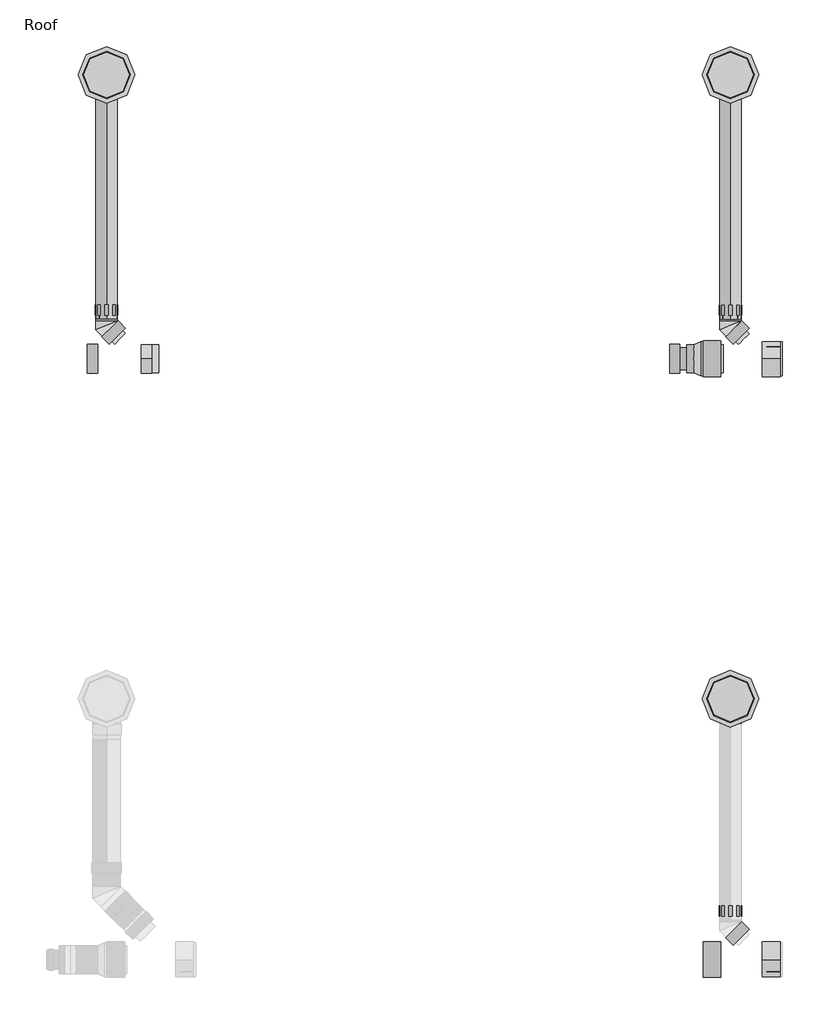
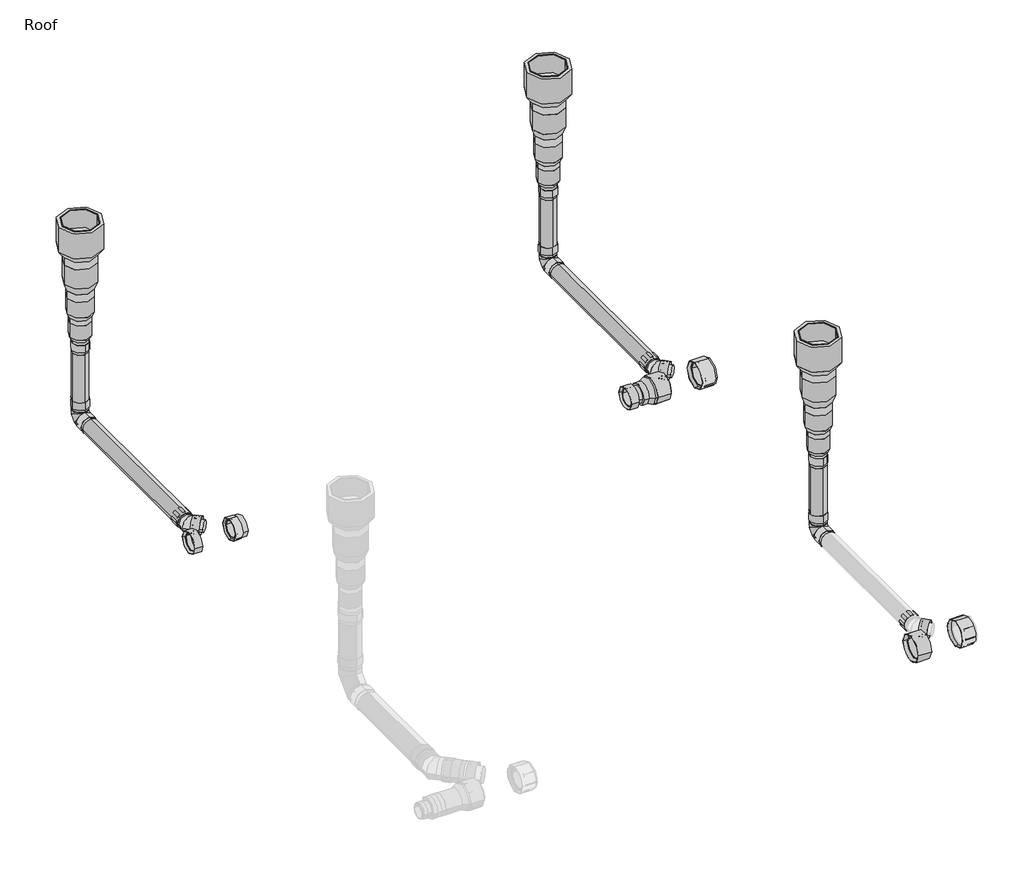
# One storey, part 2 of 2: 78 pipe fittings, 5 pipe segments.
"""IFC4 building model written with IfcOpenShell, lengths in millimetres."""

from ifc_helpers import new_model, si_unit, point, frame, frame_2d, origin, place, context, project, spatial, circle_curve, trimmed, segment, composite_curve, outline, extrude, transform, mapped, element, save
from components import single_bend_1a633ba9, std_f74d09a4, std_nested_457d7e35, std_nested_42e1da43, std_nested_46ab66b3, std_nested_0347eb02, std_nested_8359234f, std_nested_ff61fb87, std_nested_b22cb0b6, std_nested_3dcc5080, std_nested_a7162979, std_nested_8648658f, std_nested_bf630df5, std_nested_f9609c66, std_nested_90d89c33, std_nested_8d21ddc5, std_nested_0bc2af1f, std_nested_86b862b6, std_nested_4c8aca36, std_nested_1c860d80, std_nested_eee07551, std_nested_bf323bc0, std_nested_284e0d50, unequal_23b936e7, unequal_3d65edd0

model = new_model("IFC4")

# Units and contexts
model_context = context("Model", 3, world=origin())
ifc_project = project(units=[si_unit("LENGTHUNIT", "METRE", prefix="MILLI")], contexts=[model_context])

# Site, building, storey
site = spatial("IfcSite", under=ifc_project)
building = spatial("IfcBuilding", under=site)
storey = spatial("IfcBuildingStorey", under=building, Name="Roof", Elevation=8000.0)

# Pipe fittings
placement = place(None, origin())
single_bend_shape = single_bend_1a633ba9(model_context)
element("IfcPipeFitting", 1, ObjectType="PIF_ST_UN_GM-X compound pipe multi-bend_ACO : single bend", at=placement, inside=storey, context=model_context, shape_type="MappedRepresentation", body=[
    mapped(single_bend_shape, transform((-14814.684142, 6588.0682309, 6367.4522786), x_axis=(0.0, 0.0, -1.0), y_axis=(0.0, -1.0, 0.0), z_axis=(-1.0, 0.0, 0.0))),
])
element("IfcPipeFitting", 2, ObjectType="PIF_ST_UN_GM-X compound pipe multi-bend_ACO : single bend", at=placement, inside=storey, context=model_context, shape_type="MappedRepresentation", body=[
    mapped(single_bend_shape, transform((-11814.684142, 6588.0682309, 6367.4522786), x_axis=(0.0, 0.0, -1.0), y_axis=(0.0, -1.0, 0.0), z_axis=(-1.0, 0.0, 0.0))),
])
element("IfcPipeFitting", 3, ObjectType="PIF_ST_UN_GM-X compound pipe multi-bend_ACO : single bend", at=placement, inside=storey, context=model_context, shape_type="MappedRepresentation", body=[
    mapped(single_bend_shape, transform((-11814.684142, 3588.0682309, 6367.4522786), x_axis=(0.0, 0.0, -1.0), y_axis=(0.0, -1.0, 0.0), z_axis=(-1.0, 0.0, 0.0))),
])
std_shape = std_f74d09a4(model_context)
element("IfcPipeFitting", 4, ObjectType="PIF_ST_UN_GM-X compound pipe multi-optimiser (transition)_ACO : std", at=placement, inside=storey, context=model_context, shape_type="MappedRepresentation", body=[
    mapped(std_shape, transform((-14814.684142, 6588.0682309, 7573.302388), x_axis=(0.0, 0.0, -1.0), y_axis=(1.0, 0.0, 0.0), z_axis=(0.0, -1.0, 0.0))),
])
element("IfcPipeFitting", 5, ObjectType="PIF_ST_UN_GM-X compound pipe multi-optimiser (transition)_ACO : std", at=placement, inside=storey, context=model_context, shape_type="MappedRepresentation", body=[
    mapped(std_shape, transform((-11814.684142, 6588.0682309, 7573.302388), x_axis=(0.0, 0.0, -1.0), y_axis=(1.0, 0.0, 0.0), z_axis=(0.0, -1.0, 0.0))),
])
element("IfcPipeFitting", 6, ObjectType="PIF_ST_UN_GM-X compound pipe multi-optimiser (transition)_ACO : std", at=placement, inside=storey, context=model_context, shape_type="MappedRepresentation", body=[
    mapped(std_shape, transform((-11814.684142, 3588.0682309, 7573.302388), x_axis=(0.0, 0.0, -1.0), y_axis=(1.0, 0.0, 0.0), z_axis=(0.0, -1.0, 0.0))),
])
std_nested_shape = std_nested_457d7e35(model_context)
element("IfcPipeFitting", 7, ObjectType="ZZZ_do not use_PIF_GEN_WPB_GM-X (compound) pipe seal_ACO : std (nested)", at=placement, inside=storey, context=model_context, shape_type="MappedRepresentation", body=[
    mapped(std_nested_shape, transform((-14564.1709026, 5223.6615366, 6367.4522786), x_axis=(0.0, 0.0, 1.0), y_axis=(0.0, -1.0, 0.0), z_axis=(1.0, 0.0, 0.0))),
])
std_nested_2_shape = std_nested_42e1da43(model_context)
element("IfcPipeFitting", 8, ObjectType="ZZZ_do not use_PIF_GEN_WPB_GM-X (compound) pipe seal_ACO : std (nested)", at=placement, inside=storey, context=model_context, shape_type="MappedRepresentation", body=[
    mapped(std_nested_2_shape, transform((-14894.1709026, 5223.6615366, 6367.4522786), x_axis=(0.0, -1.0, 0.0), y_axis=(0.0, 0.0, 1.0), z_axis=(-1.0, 0.0, 0.0))),
])
element("IfcPipeFitting", 9, ObjectType="ZZZ_do not use_PIF_GEN_WPB_GM-X (compound) pipe seal_ACO : std (nested)", at=placement, inside=storey, context=model_context, shape_type="MappedRepresentation", body=[
    mapped(std_nested_2_shape, transform((-12094.8780094, 5223.6615366, 6367.4522786), x_axis=(0.0, 1.0, 0.0), y_axis=(0.0, 0.0, -1.0), z_axis=(-1.0, 0.0, 0.0))),
])
std_nested_3_shape = std_nested_46ab66b3(model_context)
element("IfcPipeFitting", 10, ObjectType="ZZZ_do not use_PIF_GEN_WPB_GM-X (compound) pipe seal_ACO : std (nested)", at=placement, inside=storey, context=model_context, shape_type="MappedRepresentation", body=[
    mapped(std_nested_3_shape, transform((-11924.8780094, 5223.6615366, 6367.4522786), x_axis=(0.0, -1.0, 0.0), y_axis=(0.0, 0.0, 1.0), z_axis=(-1.0, 0.0, 0.0))),
])
std_nested_4_shape = std_nested_0347eb02(model_context)
element("IfcPipeFitting", 11, ObjectType="ZZZ_do not use_PIF_GEN_WPB_GM-X (compound) pipe seal_ACO : std (nested)", at=placement, inside=storey, context=model_context, shape_type="MappedRepresentation", body=[
    mapped(std_nested_4_shape, transform((-14814.684142, 6588.0682309, 6479.7522786), x_axis=(0.0, -1.0, 0.0), y_axis=(1.0, 0.0, 0.0), z_axis=(0.0, 0.0, 1.0))),
])
element("IfcPipeFitting", 12, ObjectType="ZZZ_do not use_PIF_GEN_WPB_GM-X (compound) pipe seal_ACO : std (nested)", at=placement, inside=storey, context=model_context, shape_type="MappedRepresentation", body=[
    mapped(std_nested_4_shape, transform((-14814.684142, 5470.174776, 6367.4522786), x_axis=(-1.0, 0.0, 0.0), y_axis=(0.0, 0.0, 1.0000000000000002), z_axis=(0.0, 1.0, 0.0))),
])
element("IfcPipeFitting", 13, ObjectType="ZZZ_do not use_PIF_GEN_WPB_GM-X (compound) pipe seal_ACO : std (nested)", at=placement, inside=storey, context=model_context, shape_type="MappedRepresentation", body=[
    mapped(std_nested_4_shape, transform((-14789.2282978, 5358.7189318, 6367.4522786), x_axis=(-0.7071067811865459, -0.7071067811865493, 0.0), y_axis=(0.0, 0.0, 1.0000000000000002), z_axis=(-0.7071067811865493, 0.7071067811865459, 0.0))),
])
element("IfcPipeFitting", 14, ObjectType="ZZZ_do not use_PIF_GEN_WPB_GM-X (compound) pipe seal_ACO : std (nested)", at=placement, inside=storey, context=model_context, shape_type="MappedRepresentation", body=[
    mapped(std_nested_4_shape, transform((-11814.684142, 6588.0682309, 6479.7522786), x_axis=(0.0, -1.0, 0.0), y_axis=(1.0, 0.0, 0.0), z_axis=(0.0, 0.0, 1.0))),
])
element("IfcPipeFitting", 15, ObjectType="ZZZ_do not use_PIF_GEN_WPB_GM-X (compound) pipe seal_ACO : std (nested)", at=placement, inside=storey, context=model_context, shape_type="MappedRepresentation", body=[
    mapped(std_nested_4_shape, transform((-11814.684142, 5469.4676692, 6367.4522786), x_axis=(-1.0, 0.0, 0.0), y_axis=(0.0, 0.0, 1.0000000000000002), z_axis=(0.0, 1.0, 0.0))),
])
element("IfcPipeFitting", 16, ObjectType="ZZZ_do not use_PIF_GEN_WPB_GM-X (compound) pipe seal_ACO : std (nested)", at=placement, inside=storey, context=model_context, shape_type="MappedRepresentation", body=[
    mapped(std_nested_4_shape, transform((-11789.2282978, 5358.0118251, 6367.4522786), x_axis=(-0.7071067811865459, -0.7071067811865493, 0.0), y_axis=(0.0, 0.0, 1.0000000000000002), z_axis=(-0.7071067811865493, 0.7071067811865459, 0.0))),
])
element("IfcPipeFitting", 17, ObjectType="ZZZ_do not use_PIF_GEN_WPB_GM-X (compound) pipe seal_ACO : std (nested)", at=placement, inside=storey, context=model_context, shape_type="MappedRepresentation", body=[
    mapped(std_nested_4_shape, transform((-11814.684142, 3588.0682309, 6479.7522786), x_axis=(0.0, -1.0, 0.0), y_axis=(1.0, 0.0, 0.0), z_axis=(0.0, 0.0, 1.0))),
])
std_nested_5_shape = std_nested_8359234f(model_context)
element("IfcPipeFitting", 18, ObjectType="ZZZ_do not use_PIF_GEN_WPB_GM-X (compound) pipe seal_ACO : std (nested)", at=placement, inside=storey, context=model_context, shape_type="MappedRepresentation", body=[
    mapped(std_nested_5_shape, transform((-14814.684142, 6469.3682309, 6367.4522786), x_axis=(0.0, 0.0, -1.0), y_axis=(1.0, 0.0, 0.0), z_axis=(0.0, -1.0, 0.0))),
])
element("IfcPipeFitting", 19, ObjectType="ZZZ_do not use_PIF_GEN_WPB_GM-X (compound) pipe seal_ACO : std (nested)", at=placement, inside=storey, context=model_context, shape_type="MappedRepresentation", body=[
    mapped(std_nested_5_shape, transform((-11814.684142, 6469.3682309, 6367.4522786), x_axis=(0.0, 0.0, -1.0), y_axis=(1.0, 0.0, 0.0), z_axis=(0.0, -1.0, 0.0))),
])
element("IfcPipeFitting", 20, ObjectType="ZZZ_do not use_PIF_GEN_WPB_GM-X (compound) pipe seal_ACO : std (nested)", at=placement, inside=storey, context=model_context, shape_type="MappedRepresentation", body=[
    mapped(std_nested_5_shape, transform((-11814.684142, 3469.3682309, 6367.4522786), x_axis=(0.0, 0.0, -1.0), y_axis=(1.0, 0.0, 0.0), z_axis=(0.0, -1.0, 0.0))),
])
std_nested_6_shape = std_nested_ff61fb87(model_context)
element("IfcPipeFitting", 21, ObjectType="ZZZ_do not use_PIF_ST_WPB_GM-X compound pipe clamp_ACO : std (nested)", at=placement, inside=storey, context=model_context, shape_type="MappedRepresentation", body=[
    mapped(std_nested_6_shape, transform((-14564.1709026, 5223.6615366, 6367.4522786), x_axis=(0.0, 0.0, 1.0), y_axis=(0.0, -1.0, 0.0), z_axis=(1.0, 0.0, 0.0))),
])
std_nested_7_shape = std_nested_b22cb0b6(model_context)
element("IfcPipeFitting", 22, ObjectType="ZZZ_do not use_PIF_GEN_WPB_GM-X (compound) pipe seal_ACO : std (nested)", at=placement, inside=storey, context=model_context, shape_type="MappedRepresentation", body=[
    mapped(std_nested_7_shape, transform((-11564.8780094, 5223.6615366, 6367.4522786), x_axis=(0.0, 0.0, 1.0), y_axis=(0.0, -1.0, 0.0), z_axis=(1.0, 0.0, 0.0))),
])
std_nested_8_shape = std_nested_3dcc5080(model_context)
element("IfcPipeFitting", 23, ObjectType="ZZZ_do not use_PIF_GEN_WPB_GM-X (compound) pipe seal_ACO : std (nested)", at=placement, inside=storey, context=model_context, shape_type="MappedRepresentation", body=[
    mapped(std_nested_8_shape, transform((-14814.684142, 6588.0682309, 7428.302388), x_axis=(-1.0, 0.0, 0.0), y_axis=(0.0, -1.0, 0.0), z_axis=(0.0, 0.0, 1.0))),
])
element("IfcPipeFitting", 24, ObjectType="ZZZ_do not use_PIF_GEN_WPB_GM-X (compound) pipe seal_ACO : std (nested)", at=placement, inside=storey, context=model_context, shape_type="MappedRepresentation", body=[
    mapped(std_nested_8_shape, transform((-11814.684142, 6588.0682309, 7428.302388), x_axis=(-1.0, 0.0, 0.0), y_axis=(0.0, -1.0, 0.0), z_axis=(0.0, 0.0, 1.0))),
])
element("IfcPipeFitting", 25, ObjectType="ZZZ_do not use_PIF_GEN_WPB_GM-X (compound) pipe seal_ACO : std (nested)", at=placement, inside=storey, context=model_context, shape_type="MappedRepresentation", body=[
    mapped(std_nested_8_shape, transform((-11814.684142, 3588.0682309, 7428.302388), x_axis=(-1.0, 0.0, 0.0), y_axis=(0.0, -1.0, 0.0), z_axis=(0.0, 0.0, 1.0))),
])
element("IfcPipeFitting", 26, ObjectType="ZZZ_do not use_PIF_GEN_WPB_GM-X (compound) pipe seal_ACO : std (nested)", at=placement, inside=storey, context=model_context, shape_type="MappedRepresentation", body=[
    mapped(std_nested_3_shape, transform((-14814.684142, 6588.0682309, 7193.302388), x_axis=(-1.0, 0.0, 0.0), y_axis=(0.0, -1.0, 0.0), z_axis=(0.0, 0.0, 1.0))),
])
element("IfcPipeFitting", 27, ObjectType="ZZZ_do not use_PIF_GEN_WPB_GM-X (compound) pipe seal_ACO : std (nested)", at=placement, inside=storey, context=model_context, shape_type="MappedRepresentation", body=[
    mapped(std_nested_3_shape, transform((-11814.684142, 6588.0682309, 7193.302388), x_axis=(-1.0, 0.0, 0.0), y_axis=(0.0, -1.0, 0.0), z_axis=(0.0, 0.0, 1.0))),
])
element("IfcPipeFitting", 28, ObjectType="ZZZ_do not use_PIF_GEN_WPB_GM-X (compound) pipe seal_ACO : std (nested)", at=placement, inside=storey, context=model_context, shape_type="MappedRepresentation", body=[
    mapped(std_nested_3_shape, transform((-11814.684142, 3588.0682309, 7193.302388), x_axis=(-1.0, 0.0, 0.0), y_axis=(0.0, -1.0, 0.0), z_axis=(0.0, 0.0, 1.0))),
])
std_nested_9_shape = std_nested_a7162979(model_context)
element("IfcPipeFitting", 29, ObjectType="ZZZ_do not use_PIF_GEN_WPB_GM-X (compound) pipe seal_ACO : std (nested)", at=placement, inside=storey, context=model_context, shape_type="MappedRepresentation", body=[
    mapped(std_nested_9_shape, transform((-14814.684142, 6588.0682309, 7693.302388), x_axis=(-1.0, 0.0, 0.0), y_axis=(0.0, -1.0, 0.0), z_axis=(0.0, 0.0, 1.0))),
])
element("IfcPipeFitting", 30, ObjectType="ZZZ_do not use_PIF_GEN_WPB_GM-X (compound) pipe seal_ACO : std (nested)", at=placement, inside=storey, context=model_context, shape_type="MappedRepresentation", body=[
    mapped(std_nested_9_shape, transform((-11814.684142, 6588.0682309, 7693.302388), x_axis=(-1.0, 0.0, 0.0), y_axis=(0.0, -1.0, 0.0), z_axis=(0.0, 0.0, 1.0))),
])
element("IfcPipeFitting", 31, ObjectType="ZZZ_do not use_PIF_GEN_WPB_GM-X (compound) pipe seal_ACO : std (nested)", at=placement, inside=storey, context=model_context, shape_type="MappedRepresentation", body=[
    mapped(std_nested_9_shape, transform((-11814.684142, 3588.0682309, 7693.302388), x_axis=(-1.0, 0.0, 0.0), y_axis=(0.0, -1.0, 0.0), z_axis=(0.0, 0.0, 1.0))),
])
element("IfcPipeFitting", 32, ObjectType="ZZZ_do not use_PIF_GEN_WPB_GM-X (compound) pipe seal_ACO : std (nested)", at=placement, inside=storey, context=model_context, shape_type="MappedRepresentation", body=[
    mapped(std_nested_2_shape, transform((-14814.684142, 6588.0682309, 7023.302388), x_axis=(-1.0, 0.0, 0.0), y_axis=(0.0, -1.0, 0.0), z_axis=(0.0, 0.0, 1.0))),
])
element("IfcPipeFitting", 33, ObjectType="ZZZ_do not use_PIF_GEN_WPB_GM-X (compound) pipe seal_ACO : std (nested)", at=placement, inside=storey, context=model_context, shape_type="MappedRepresentation", body=[
    mapped(std_nested_2_shape, transform((-11814.684142, 6588.0682309, 7023.302388), x_axis=(-1.0, 0.0, 0.0), y_axis=(0.0, -1.0, 0.0), z_axis=(0.0, 0.0, 1.0))),
])
element("IfcPipeFitting", 34, ObjectType="ZZZ_do not use_PIF_GEN_WPB_GM-X (compound) pipe seal_ACO : std (nested)", at=placement, inside=storey, context=model_context, shape_type="MappedRepresentation", body=[
    mapped(std_nested_2_shape, transform((-11814.684142, 3588.0682309, 7023.302388), x_axis=(-1.0, 0.0, 0.0), y_axis=(0.0, -1.0, 0.0), z_axis=(0.0, 0.0, 1.0))),
])
element("IfcPipeFitting", 35, ObjectType="ZZZ_do not use_PIF_GEN_WPB_GM-X (compound) pipe seal_ACO : std (nested)", at=placement, inside=storey, context=model_context, shape_type="MappedRepresentation", body=[
    mapped(std_nested_5_shape, transform((-14814.684142, 6588.0682309, 6813.302388), x_axis=(0.0, 1.0, 0.0), y_axis=(1.0, 0.0, 0.0), z_axis=(0.0, 0.0, -1.0))),
])
element("IfcPipeFitting", 36, ObjectType="ZZZ_do not use_PIF_GEN_WPB_GM-X (compound) pipe seal_ACO : std (nested)", at=placement, inside=storey, context=model_context, shape_type="MappedRepresentation", body=[
    mapped(std_nested_5_shape, transform((-11814.684142, 6588.0682309, 6813.302388), x_axis=(0.0, 1.0, 0.0), y_axis=(1.0, 0.0, 0.0), z_axis=(0.0, 0.0, -1.0))),
])
element("IfcPipeFitting", 37, ObjectType="ZZZ_do not use_PIF_GEN_WPB_GM-X (compound) pipe seal_ACO : std (nested)", at=placement, inside=storey, context=model_context, shape_type="MappedRepresentation", body=[
    mapped(std_nested_5_shape, transform((-11814.684142, 3588.0682309, 6813.302388), x_axis=(0.0, 1.0, 0.0), y_axis=(1.0, 0.0, 0.0), z_axis=(0.0, 0.0, -1.0))),
])
std_nested_10_shape = std_nested_8648658f(model_context)
element("IfcPipeFitting", 38, ObjectType="ZZZ_do not use_PIF_ST_WPB_GM-X compound pipe clamp_ACO : std (nested)", at=placement, inside=storey, context=model_context, shape_type="MappedRepresentation", body=[
    mapped(std_nested_10_shape, transform((-14814.684142, 6469.3682309, 6367.4522786), x_axis=(0.0, 0.0, -1.0), y_axis=(1.0, 0.0, 0.0), z_axis=(0.0, -1.0, 0.0))),
])
element("IfcPipeFitting", 39, ObjectType="ZZZ_do not use_PIF_ST_WPB_GM-X compound pipe clamp_ACO : std (nested)", at=placement, inside=storey, context=model_context, shape_type="MappedRepresentation", body=[
    mapped(std_nested_10_shape, transform((-11814.684142, 6469.3682309, 6367.4522786), x_axis=(0.0, 0.0, -1.0), y_axis=(1.0, 0.0, 0.0), z_axis=(0.0, -1.0, 0.0))),
])
element("IfcPipeFitting", 40, ObjectType="ZZZ_do not use_PIF_ST_WPB_GM-X compound pipe clamp_ACO : std (nested)", at=placement, inside=storey, context=model_context, shape_type="MappedRepresentation", body=[
    mapped(std_nested_10_shape, transform((-11814.684142, 3469.3682309, 6367.4522786), x_axis=(0.0, 0.0, -1.0), y_axis=(1.0, 0.0, 0.0), z_axis=(0.0, -1.0, 0.0))),
])
std_nested_11_shape = std_nested_bf630df5(model_context)
element("IfcPipeFitting", 41, ObjectType="ZZZ_do not use_PIF_ST_WPB_GM-X compound pipe clamp_ACO : std (nested)", at=placement, inside=storey, context=model_context, shape_type="MappedRepresentation", body=[
    mapped(std_nested_11_shape, transform((-14894.1709026, 5223.6615366, 6367.4522786), x_axis=(0.0, -1.0, 0.0), y_axis=(0.0, 0.0, 1.0), z_axis=(-1.0, 0.0, 0.0))),
])
element("IfcPipeFitting", 42, ObjectType="ZZZ_do not use_PIF_ST_WPB_GM-X compound pipe clamp_ACO : std (nested)", at=placement, inside=storey, context=model_context, shape_type="MappedRepresentation", body=[
    mapped(std_nested_11_shape, transform((-12094.8780094, 5223.6615366, 6367.4522786), x_axis=(0.0, 1.0, 0.0), y_axis=(0.0, 0.0, -1.0), z_axis=(-1.0, 0.0, 0.0))),
])
std_nested_12_shape = std_nested_f9609c66(model_context)
element("IfcPipeFitting", 43, ObjectType="ZZZ_do not use_PIF_ST_WPB_GM-X compound pipe clamp_ACO : std (nested)", at=placement, inside=storey, context=model_context, shape_type="MappedRepresentation", body=[
    mapped(std_nested_12_shape, transform((-14814.684142, 6588.0682309, 6479.7522786), x_axis=(0.0, -1.0, 0.0), y_axis=(1.0, 0.0, 0.0), z_axis=(0.0, 0.0, 1.0))),
])
element("IfcPipeFitting", 44, ObjectType="ZZZ_do not use_PIF_ST_WPB_GM-X compound pipe clamp_ACO : std (nested)", at=placement, inside=storey, context=model_context, shape_type="MappedRepresentation", body=[
    mapped(std_nested_12_shape, transform((-11814.684142, 6588.0682309, 6479.7522786), x_axis=(0.0, -1.0, 0.0), y_axis=(1.0, 0.0, 0.0), z_axis=(0.0, 0.0, 1.0))),
])
element("IfcPipeFitting", 45, ObjectType="ZZZ_do not use_PIF_ST_WPB_GM-X compound pipe clamp_ACO : std (nested)", at=placement, inside=storey, context=model_context, shape_type="MappedRepresentation", body=[
    mapped(std_nested_12_shape, transform((-11814.684142, 3588.0682309, 6479.7522786), x_axis=(0.0, -1.0, 0.0), y_axis=(1.0, 0.0, 0.0), z_axis=(0.0, 0.0, 1.0))),
])
element("IfcPipeFitting", 46, ObjectType="ZZZ_do not use_PIF_ST_WPB_GM-X compound pipe clamp_ACO : std (nested)", at=placement, inside=storey, context=model_context, shape_type="MappedRepresentation", body=[
    mapped(std_nested_12_shape, transform((-14814.684142, 5470.174776, 6367.4522786), x_axis=(-1.0, 0.0, 0.0), y_axis=(0.0, 0.0, 1.0000000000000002), z_axis=(0.0, 1.0, 0.0))),
])
element("IfcPipeFitting", 47, ObjectType="ZZZ_do not use_PIF_ST_WPB_GM-X compound pipe clamp_ACO : std (nested)", at=placement, inside=storey, context=model_context, shape_type="MappedRepresentation", body=[
    mapped(std_nested_12_shape, transform((-14789.2282978, 5358.7189318, 6367.4522786), x_axis=(-0.7071067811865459, -0.7071067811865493, 0.0), y_axis=(0.0, 0.0, 1.0000000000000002), z_axis=(-0.7071067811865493, 0.7071067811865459, 0.0))),
])
element("IfcPipeFitting", 48, ObjectType="ZZZ_do not use_PIF_ST_WPB_GM-X compound pipe clamp_ACO : std (nested)", at=placement, inside=storey, context=model_context, shape_type="MappedRepresentation", body=[
    mapped(std_nested_12_shape, transform((-11814.684142, 5469.4676692, 6367.4522786), x_axis=(-1.0, 0.0, 0.0), y_axis=(0.0, 0.0, 1.0000000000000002), z_axis=(0.0, 1.0, 0.0))),
])
element("IfcPipeFitting", 49, ObjectType="ZZZ_do not use_PIF_ST_WPB_GM-X compound pipe clamp_ACO : std (nested)", at=placement, inside=storey, context=model_context, shape_type="MappedRepresentation", body=[
    mapped(std_nested_12_shape, transform((-11789.2282978, 5358.0118251, 6367.4522786), x_axis=(-0.7071067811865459, -0.7071067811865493, 0.0), y_axis=(0.0, 0.0, 1.0000000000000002), z_axis=(-0.7071067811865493, 0.7071067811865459, 0.0))),
])
element("IfcPipeFitting", 50, ObjectType="ZZZ_do not use_PIF_ST_WPB_GM-X compound pipe clamp_ACO : std (nested)", at=placement, inside=storey, context=model_context, shape_type="MappedRepresentation", body=[
    mapped(std_nested_12_shape, transform((-11814.684142, 2579.9140576, 6367.4522786), x_axis=(-1.0, 0.0, 0.0), y_axis=(0.0, 0.0, 1.0000000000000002), z_axis=(0.0, 1.0, 0.0))),
])
element("IfcPipeFitting", 51, ObjectType="ZZZ_do not use_PIF_ST_WPB_GM-X compound pipe clamp_ACO : std (nested)", at=placement, inside=storey, context=model_context, shape_type="MappedRepresentation", body=[
    mapped(std_nested_12_shape, transform((-11789.2282978, 2468.4582135, 6367.4522786), x_axis=(0.7071067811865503, 0.7071067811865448, 0.0), y_axis=(0.0, 0.0, -1.0000000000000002), z_axis=(-0.7071067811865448, 0.7071067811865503, 0.0))),
])
std_nested_13_shape = std_nested_90d89c33(model_context)
element("IfcPipeFitting", 52, ObjectType="ZZZ_do not use_PIF_ST_WPB_GM-X compound pipe clamp_ACO : std (nested)", at=placement, inside=storey, context=model_context, shape_type="MappedRepresentation", body=[
    mapped(std_nested_13_shape, transform((-11924.8780094, 5223.6615366, 6367.4522786), x_axis=(0.0, -1.0, 0.0), y_axis=(0.0, 0.0, 1.0), z_axis=(-1.0, 0.0, 0.0))),
])
element("IfcPipeFitting", 53, ObjectType="ZZZ_do not use_PIF_ST_WPB_GM-X compound pipe clamp_ACO : std (nested)", at=placement, inside=storey, context=model_context, shape_type="MappedRepresentation", body=[
    mapped(std_nested_13_shape, transform((-11924.8780094, 2334.1079251, 6367.4522786), x_axis=(0.0, 1.0, 0.0), y_axis=(0.0, 0.0, -1.0), z_axis=(-1.0, 0.0, 0.0))),
])
std_nested_14_shape = std_nested_8d21ddc5(model_context)
element("IfcPipeFitting", 54, ObjectType="ZZZ_do not use_PIF_ST_WPB_GM-X compound pipe clamp_ACO : std (nested)", at=placement, inside=storey, context=model_context, shape_type="MappedRepresentation", body=[
    mapped(std_nested_14_shape, transform((-11564.8780094, 5223.6615366, 6367.4522786), x_axis=(0.0, 0.0, 1.0), y_axis=(0.0, -1.0, 0.0), z_axis=(1.0, 0.0, 0.0))),
])
element("IfcPipeFitting", 55, ObjectType="ZZZ_do not use_PIF_ST_WPB_GM-X compound pipe clamp_ACO : std (nested)", at=placement, inside=storey, context=model_context, shape_type="MappedRepresentation", body=[
    mapped(std_nested_14_shape, transform((-11564.8780094, 2334.1079251, 6367.4522786), x_axis=(0.0, 0.0, -1.0), y_axis=(0.0, 1.0, 0.0), z_axis=(1.0, 0.0, 0.0))),
])
element("IfcPipeFitting", 56, ObjectType="ZZZ_do not use_PIF_ST_WPB_GM-X compound pipe clamp_ACO : std (nested)", at=placement, inside=storey, context=model_context, shape_type="MappedRepresentation", body=[
    mapped(std_nested_10_shape, transform((-14814.684142, 6588.0682309, 6813.302388), x_axis=(0.0, 1.0, 0.0), y_axis=(1.0, 0.0, 0.0), z_axis=(0.0, 0.0, -1.0))),
])
element("IfcPipeFitting", 57, ObjectType="ZZZ_do not use_PIF_ST_WPB_GM-X compound pipe clamp_ACO : std (nested)", at=placement, inside=storey, context=model_context, shape_type="MappedRepresentation", body=[
    mapped(std_nested_10_shape, transform((-11814.684142, 6588.0682309, 6813.302388), x_axis=(0.0, 1.0, 0.0), y_axis=(1.0, 0.0, 0.0), z_axis=(0.0, 0.0, -1.0))),
])
element("IfcPipeFitting", 58, ObjectType="ZZZ_do not use_PIF_ST_WPB_GM-X compound pipe clamp_ACO : std (nested)", at=placement, inside=storey, context=model_context, shape_type="MappedRepresentation", body=[
    mapped(std_nested_10_shape, transform((-11814.684142, 3588.0682309, 6813.302388), x_axis=(0.0, 1.0, 0.0), y_axis=(1.0, 0.0, 0.0), z_axis=(0.0, 0.0, -1.0))),
])
std_nested_15_shape = std_nested_0bc2af1f(model_context)
element("IfcPipeFitting", 59, ObjectType="ZZZ_do not use_PIF_ST_WPB_GM-X compound pipe bend_ACO : std (nested)", at=placement, inside=storey, context=model_context, shape_type="MappedRepresentation", body=[
    mapped(std_nested_15_shape, transform((-14814.684142, 6588.0682309, 6367.4522786), x_axis=(0.0, 0.0, -1.0), y_axis=(0.0, -1.0, 0.0), z_axis=(-1.0, 0.0, 0.0))),
])
element("IfcPipeFitting", 60, ObjectType="ZZZ_do not use_PIF_ST_WPB_GM-X compound pipe bend_ACO : std (nested)", at=placement, inside=storey, context=model_context, shape_type="MappedRepresentation", body=[
    mapped(std_nested_15_shape, transform((-11814.684142, 6588.0682309, 6367.4522786), x_axis=(0.0, 0.0, -1.0), y_axis=(0.0, -1.0, 0.0), z_axis=(-1.0, 0.0, 0.0))),
])
element("IfcPipeFitting", 61, ObjectType="ZZZ_do not use_PIF_ST_WPB_GM-X compound pipe bend_ACO : std (nested)", at=placement, inside=storey, context=model_context, shape_type="MappedRepresentation", body=[
    mapped(std_nested_15_shape, transform((-11814.684142, 3588.0682309, 6367.4522786), x_axis=(0.0, 0.0, -1.0), y_axis=(0.0, -1.0, 0.0), z_axis=(-1.0, 0.0, 0.0))),
])
std_nested_16_shape = std_nested_86b862b6(model_context)
element("IfcPipeFitting", 62, ObjectType="ZZZ_do not use_PIF_ST_WPB_GM-X compound pipe bend_ACO : std (nested)", at=placement, inside=storey, context=model_context, shape_type="MappedRepresentation", body=[
    mapped(std_nested_16_shape, transform((-14814.684142, 5384.174776, 6367.4522786), x_axis=(-0.7071067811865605, 0.7071067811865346, 0.0), y_axis=(0.7071067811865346, 0.7071067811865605, 0.0), z_axis=(0.0, 0.0, -1.0))),
])
element("IfcPipeFitting", 63, ObjectType="ZZZ_do not use_PIF_ST_WPB_GM-X compound pipe bend_ACO : std (nested)", at=placement, inside=storey, context=model_context, shape_type="MappedRepresentation", body=[
    mapped(std_nested_16_shape, transform((-11814.684142, 5383.4676692, 6367.4522786), x_axis=(-0.7071067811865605, 0.7071067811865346, 0.0), y_axis=(0.7071067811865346, 0.7071067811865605, 0.0), z_axis=(0.0, 0.0, -1.0))),
])
std_nested_17_shape = std_nested_4c8aca36(model_context)
element("IfcPipeFitting", 64, ObjectType="ZZZ_do not use_PIF_ST_WPB_GM-X compound pipe optimiser_ACO : std (nested)", at=placement, inside=storey, context=model_context, shape_type="MappedRepresentation", body=[
    mapped(std_nested_17_shape, transform((-14814.684142, 6588.0682309, 7573.302388), x_axis=(0.0, 0.0, -1.0), y_axis=(1.0, 0.0, 0.0), z_axis=(0.0, -1.0, 0.0))),
])
element("IfcPipeFitting", 65, ObjectType="ZZZ_do not use_PIF_ST_WPB_GM-X compound pipe optimiser_ACO : std (nested)", at=placement, inside=storey, context=model_context, shape_type="MappedRepresentation", body=[
    mapped(std_nested_17_shape, transform((-11814.684142, 6588.0682309, 7573.302388), x_axis=(0.0, 0.0, -1.0), y_axis=(1.0, 0.0, 0.0), z_axis=(0.0, -1.0, 0.0))),
])
element("IfcPipeFitting", 66, ObjectType="ZZZ_do not use_PIF_ST_WPB_GM-X compound pipe optimiser_ACO : std (nested)", at=placement, inside=storey, context=model_context, shape_type="MappedRepresentation", body=[
    mapped(std_nested_17_shape, transform((-11814.684142, 3588.0682309, 7573.302388), x_axis=(0.0, 0.0, -1.0), y_axis=(1.0, 0.0, 0.0), z_axis=(0.0, -1.0, 0.0))),
])
std_nested_18_shape = std_nested_1c860d80(model_context)
element("IfcPipeFitting", 67, ObjectType="ZZZ_do not use_PIF_ST_WPB_GM-X compound pipe optimiser_ACO : std (nested)", at=placement, inside=storey, context=model_context, shape_type="MappedRepresentation", body=[
    mapped(std_nested_18_shape, transform((-14814.684142, 6588.0682309, 7348.302388), x_axis=(0.0, 0.0, -1.0), y_axis=(1.0, 0.0, 0.0), z_axis=(0.0, -1.0, 0.0))),
])
element("IfcPipeFitting", 68, ObjectType="ZZZ_do not use_PIF_ST_WPB_GM-X compound pipe optimiser_ACO : std (nested)", at=placement, inside=storey, context=model_context, shape_type="MappedRepresentation", body=[
    mapped(std_nested_18_shape, transform((-11814.684142, 6588.0682309, 7348.302388), x_axis=(0.0, 0.0, -1.0), y_axis=(1.0, 0.0, 0.0), z_axis=(0.0, -1.0, 0.0))),
])
element("IfcPipeFitting", 69, ObjectType="ZZZ_do not use_PIF_ST_WPB_GM-X compound pipe optimiser_ACO : std (nested)", at=placement, inside=storey, context=model_context, shape_type="MappedRepresentation", body=[
    mapped(std_nested_18_shape, transform((-11814.684142, 3588.0682309, 7348.302388), x_axis=(0.0, 0.0, -1.0), y_axis=(1.0, 0.0, 0.0), z_axis=(0.0, -1.0, 0.0))),
])
std_nested_19_shape = std_nested_eee07551(model_context)
element("IfcPipeFitting", 70, ObjectType="ZZZ_do not use_PIF_ST_WPB_GM-X compound pipe optimiser_ACO : std (nested)", at=placement, inside=storey, context=model_context, shape_type="MappedRepresentation", body=[
    mapped(std_nested_19_shape, transform((-14814.684142, 6588.0682309, 7118.302388), x_axis=(0.0, 0.0, -1.0), y_axis=(1.0, 0.0, 0.0), z_axis=(0.0, -1.0, 0.0))),
])
element("IfcPipeFitting", 71, ObjectType="ZZZ_do not use_PIF_ST_WPB_GM-X compound pipe optimiser_ACO : std (nested)", at=placement, inside=storey, context=model_context, shape_type="MappedRepresentation", body=[
    mapped(std_nested_19_shape, transform((-11814.684142, 6588.0682309, 7118.302388), x_axis=(0.0, 0.0, -1.0), y_axis=(1.0, 0.0, 0.0), z_axis=(0.0, -1.0, 0.0))),
])
element("IfcPipeFitting", 72, ObjectType="ZZZ_do not use_PIF_ST_WPB_GM-X compound pipe optimiser_ACO : std (nested)", at=placement, inside=storey, context=model_context, shape_type="MappedRepresentation", body=[
    mapped(std_nested_19_shape, transform((-11814.684142, 3588.0682309, 7118.302388), x_axis=(0.0, 0.0, -1.0), y_axis=(1.0, 0.0, 0.0), z_axis=(0.0, -1.0, 0.0))),
])
std_nested_20_shape = std_nested_bf323bc0(model_context)
element("IfcPipeFitting", 73, ObjectType="ZZZ_do not use_PIF_ST_WPB_GM-X compound pipe optimiser_ACO : std (nested)", at=placement, inside=storey, context=model_context, shape_type="MappedRepresentation", body=[
    mapped(std_nested_20_shape, transform((-14814.684142, 6588.0682309, 6953.302388), x_axis=(0.0, 0.0, -1.0), y_axis=(1.0, 0.0, 0.0), z_axis=(0.0, -1.0, 0.0))),
])
element("IfcPipeFitting", 74, ObjectType="ZZZ_do not use_PIF_ST_WPB_GM-X compound pipe optimiser_ACO : std (nested)", at=placement, inside=storey, context=model_context, shape_type="MappedRepresentation", body=[
    mapped(std_nested_20_shape, transform((-11814.684142, 6588.0682309, 6953.302388), x_axis=(0.0, 0.0, -1.0), y_axis=(1.0, 0.0, 0.0), z_axis=(0.0, -1.0, 0.0))),
])
element("IfcPipeFitting", 75, ObjectType="ZZZ_do not use_PIF_ST_WPB_GM-X compound pipe optimiser_ACO : std (nested)", at=placement, inside=storey, context=model_context, shape_type="MappedRepresentation", body=[
    mapped(std_nested_20_shape, transform((-11814.684142, 3588.0682309, 6953.302388), x_axis=(0.0, 0.0, -1.0), y_axis=(1.0, 0.0, 0.0), z_axis=(0.0, -1.0, 0.0))),
])
std_nested_21_shape = std_nested_284e0d50(model_context)
element("IfcPipeFitting", 76, ObjectType="ZZZ_do not use_PIF_ST_WPB_GM-X compound pipe reducer_ACO : std (nested)", at=placement, inside=storey, context=model_context, shape_type="MappedRepresentation", body=[
    mapped(std_nested_21_shape, transform((-11849.8780094, 5223.6615366, 6367.4522786), x_axis=(1.0, 0.0, 0.0), y_axis=(0.0, 1.0, 0.0), z_axis=(0.0, 0.0, 1.0))),
])
unequal_shape = unequal_23b936e7(model_context)
element("IfcPipeFitting", 77, ObjectType="PIF_ST_UN_GM-X compound pipe multi-tee_ACO : unequal", at=placement, inside=storey, context=model_context, shape_type="MappedRepresentation", body=[
    mapped(unequal_shape, transform((-14654.1709026, 5223.6615366, 6367.4522786), x_axis=(-1.0, 0.0, 0.0), y_axis=(0.0, 1.0, 0.0), z_axis=(0.0, 0.0, -1.0))),
])
unequal_2_shape = unequal_3d65edd0(model_context)
element("IfcPipeFitting", 78, ObjectType="PIF_ST_UN_GM-X compound pipe multi-tee_ACO : unequal", at=placement, inside=storey, context=model_context, shape_type="MappedRepresentation", body=[
    mapped(unequal_2_shape, transform((-11654.8780094, 5223.6615366, 6367.4522786), x_axis=(-1.0, 0.0, 0.0), y_axis=(0.0, 1.0, 0.0), z_axis=(0.0, 0.0, -1.0))),
])

# Pipe segments
element("IfcPipeSegment", 79, ObjectType="GM-X compound pipe", at=placement, inside=storey, context=model_context, shape_type="SweptSolid", body=[
    extrude(outline(composite_curve([segment(trimmed(circle_curve(frame_2d((-14814.684142, 6588.0682309)), 51.0), [point((-14763.684142, 6588.0682309))], [point((-14814.684142, 6537.0682309))], False, "CARTESIAN"), True, "CONTINUOUS"), segment(trimmed(circle_curve(frame_2d((-14814.684142, 6588.0682309)), 51.0), [point((-14814.684142, 6537.0682309))], [point((-14865.684142, 6588.0682309))], False, "CARTESIAN"), True, "CONTINUOUS"), segment(trimmed(circle_curve(frame_2d((-14814.684142, 6588.0682309)), 51.0), [point((-14865.684142, 6588.0682309))], [point((-14814.684142, 6639.0682309))], False, "CARTESIAN"), True, "CONTINUOUS"), segment(trimmed(circle_curve(frame_2d((-14814.684142, 6588.0682309)), 51.0), [point((-14814.684142, 6639.0682309))], [point((-14763.684142, 6588.0682309))], False, "CARTESIAN"), True, "CONTINUOUS")], self_intersect=False)), frame((0.0, 0.0, 6424.7522786), z_axis=(0.0, 0.0, 1.0), x_axis=(1.0, 0.0, 0.0)), (0.0, 0.0, 1.0), 388.5501094),
])
element("IfcPipeSegment", 80, ObjectType="GM-X compound pipe", at=placement, inside=storey, context=model_context, shape_type="SweptSolid", body=[
    extrude(outline(composite_curve([segment(trimmed(circle_curve(frame_2d((6367.4522786, -14814.684142)), 51.0), [point((6367.4522786, -14865.684142))], [point((6316.4522786, -14814.684142))], False, "CARTESIAN"), True, "CONTINUOUS"), segment(trimmed(circle_curve(frame_2d((6367.4522786, -14814.684142)), 51.0), [point((6316.4522786, -14814.684142))], [point((6367.4522786, -14763.684142))], False, "CARTESIAN"), True, "CONTINUOUS"), segment(trimmed(circle_curve(frame_2d((6367.4522786, -14814.684142)), 51.0), [point((6367.4522786, -14763.684142))], [point((6418.4522786, -14814.684142))], False, "CARTESIAN"), True, "CONTINUOUS"), segment(trimmed(circle_curve(frame_2d((6367.4522786, -14814.684142)), 51.0), [point((6418.4522786, -14814.684142))], [point((6367.4522786, -14865.684142))], False, "CARTESIAN"), True, "CONTINUOUS")], self_intersect=False)), frame((0.0, 5415.174776, 0.0), z_axis=(0.0, 1.0, 0.0), x_axis=(0.0, 0.0, 1.0)), (0.0, 0.0, 1.0), 1054.193455),
])
element("IfcPipeSegment", 81, ObjectType="GM-X compound pipe", at=placement, inside=storey, context=model_context, shape_type="SweptSolid", body=[
    extrude(outline(composite_curve([segment(trimmed(circle_curve(frame_2d((-11814.684142, 6588.0682309)), 51.0), [point((-11763.684142, 6588.0682309))], [point((-11814.684142, 6537.0682309))], False, "CARTESIAN"), True, "CONTINUOUS"), segment(trimmed(circle_curve(frame_2d((-11814.684142, 6588.0682309)), 51.0), [point((-11814.684142, 6537.0682309))], [point((-11865.684142, 6588.0682309))], False, "CARTESIAN"), True, "CONTINUOUS"), segment(trimmed(circle_curve(frame_2d((-11814.684142, 6588.0682309)), 51.0), [point((-11865.684142, 6588.0682309))], [point((-11814.684142, 6639.0682309))], False, "CARTESIAN"), True, "CONTINUOUS"), segment(trimmed(circle_curve(frame_2d((-11814.684142, 6588.0682309)), 51.0), [point((-11814.684142, 6639.0682309))], [point((-11763.684142, 6588.0682309))], False, "CARTESIAN"), True, "CONTINUOUS")], self_intersect=False)), frame((0.0, 0.0, 6424.7522786), z_axis=(0.0, 0.0, 1.0), x_axis=(1.0, 0.0, 0.0)), (0.0, 0.0, 1.0), 388.5501094),
])
element("IfcPipeSegment", 82, ObjectType="GM-X compound pipe", at=placement, inside=storey, context=model_context, shape_type="SweptSolid", body=[
    extrude(outline(composite_curve([segment(trimmed(circle_curve(frame_2d((6367.4522786, -11814.684142)), 51.0), [point((6367.4522786, -11865.684142))], [point((6316.4522786, -11814.684142))], False, "CARTESIAN"), True, "CONTINUOUS"), segment(trimmed(circle_curve(frame_2d((6367.4522786, -11814.684142)), 51.0), [point((6316.4522786, -11814.684142))], [point((6367.4522786, -11763.684142))], False, "CARTESIAN"), True, "CONTINUOUS"), segment(trimmed(circle_curve(frame_2d((6367.4522786, -11814.684142)), 51.0), [point((6367.4522786, -11763.684142))], [point((6418.4522786, -11814.684142))], False, "CARTESIAN"), True, "CONTINUOUS"), segment(trimmed(circle_curve(frame_2d((6367.4522786, -11814.684142)), 51.0), [point((6418.4522786, -11814.684142))], [point((6367.4522786, -11865.684142))], False, "CARTESIAN"), True, "CONTINUOUS")], self_intersect=False)), frame((0.0, 5414.4676692, 0.0), z_axis=(0.0, 1.0, 0.0), x_axis=(0.0, 0.0, 1.0)), (0.0, 0.0, 1.0), 1054.9005618),
])
element("IfcPipeSegment", 83, ObjectType="GM-X compound pipe", at=placement, inside=storey, context=model_context, shape_type="SweptSolid", body=[
    extrude(outline(composite_curve([segment(trimmed(circle_curve(frame_2d((-11814.684142, 3588.0682309)), 51.0), [point((-11763.684142, 3588.0682309))], [point((-11814.684142, 3537.0682309))], False, "CARTESIAN"), True, "CONTINUOUS"), segment(trimmed(circle_curve(frame_2d((-11814.684142, 3588.0682309)), 51.0), [point((-11814.684142, 3537.0682309))], [point((-11865.684142, 3588.0682309))], False, "CARTESIAN"), True, "CONTINUOUS"), segment(trimmed(circle_curve(frame_2d((-11814.684142, 3588.0682309)), 51.0), [point((-11865.684142, 3588.0682309))], [point((-11814.684142, 3639.0682309))], False, "CARTESIAN"), True, "CONTINUOUS"), segment(trimmed(circle_curve(frame_2d((-11814.684142, 3588.0682309)), 51.0), [point((-11814.684142, 3639.0682309))], [point((-11763.684142, 3588.0682309))], False, "CARTESIAN"), True, "CONTINUOUS")], self_intersect=False)), frame((0.0, 0.0, 6424.7522786), z_axis=(0.0, 0.0, 1.0), x_axis=(1.0, 0.0, 0.0)), (0.0, 0.0, 1.0), 388.5501094),
])

save(model, "model.ifc")
